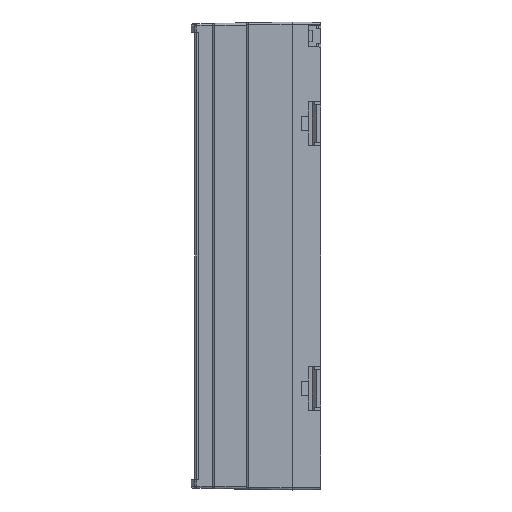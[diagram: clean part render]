
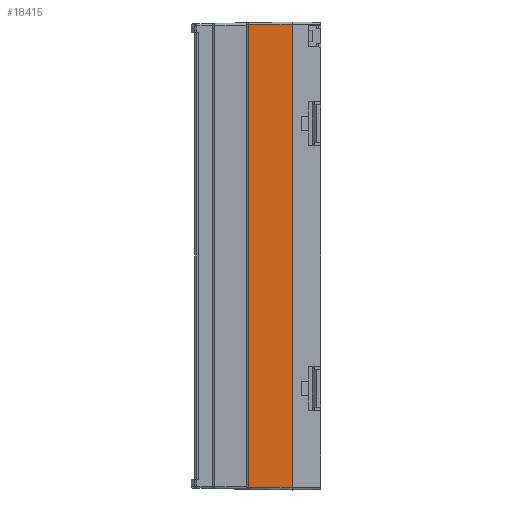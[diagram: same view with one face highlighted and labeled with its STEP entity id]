
A CAD part, left-side view. The second image highlights one B-rep face of the part: STEP entity #18415.
In plain terms, the highlighted planar face has unit normal (-1, 0.018, 0).
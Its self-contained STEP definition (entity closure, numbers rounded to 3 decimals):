
#490 = LINE ( 'NONE', #5348, #2613 ) ;
#559 = CARTESIAN_POINT ( 'NONE',  ( -44.658, -3.283, -104.708 ) ) ;
#2613 = VECTOR ( 'NONE', #11461, 1000. ) ;
#2918 = VECTOR ( 'NONE', #11613, 1000. ) ;
#3586 = VERTEX_POINT ( 'NONE', #12867 ) ;
#4627 = PLANE ( 'NONE',  #6054 ) ;
#4784 = CARTESIAN_POINT ( 'NONE',  ( -45., -22.9, -105.05 ) ) ;
#5348 = CARTESIAN_POINT ( 'NONE',  ( -45., -22.917, -105.05 ) ) ;
#6054 = AXIS2_PLACEMENT_3D ( 'NONE', #6140, #7452, #10739 ) ;
#6128 = EDGE_LOOP ( 'NONE', ( #6543, #13544, #6410, #13239 ) ) ;
#6140 = CARTESIAN_POINT ( 'NONE',  ( -44.587, 0.778, 106.05 ) ) ;
#6410 = ORIENTED_EDGE ( 'NONE', *, *, #15006, .T. ) ;
#6543 = ORIENTED_EDGE ( 'NONE', *, *, #14222, .T. ) ;
#7298 = VECTOR ( 'NONE', #8529, 1000. ) ;
#7324 = LINE ( 'NONE', #14554, #7298 ) ;
#7377 = CARTESIAN_POINT ( 'NONE',  ( -44.658, -3.283, 104.708 ) ) ;
#7452 = DIRECTION ( 'NONE',  ( -1., 0.017, 0. ) ) ;
#8035 = EDGE_CURVE ( 'NONE', #8166, #8799, #15707, .T. ) ;
#8166 = VERTEX_POINT ( 'NONE', #7377 ) ;
#8529 = DIRECTION ( 'NONE',  ( 0., 0., -1. ) ) ;
#8799 = VERTEX_POINT ( 'NONE', #559 ) ;
#8946 = FACE_OUTER_BOUND ( 'NONE', #6128, .T. ) ;
#9682 = CARTESIAN_POINT ( 'NONE',  ( -44.658, -3.283, 106.05 ) ) ;
#10044 = VERTEX_POINT ( 'NONE', #4784 ) ;
#10739 = DIRECTION ( 'NONE',  ( -0.017, -1., 0. ) ) ;
#11461 = DIRECTION ( 'NONE',  ( -0.017, -1., -0.017 ) ) ;
#11613 = DIRECTION ( 'NONE',  ( 0.017, 1., -0.017 ) ) ;
#12867 = CARTESIAN_POINT ( 'NONE',  ( -45., -22.9, 105.05 ) ) ;
#13106 = LINE ( 'NONE', #14305, #2918 ) ;
#13239 = ORIENTED_EDGE ( 'NONE', *, *, #16141, .F. ) ;
#13544 = ORIENTED_EDGE ( 'NONE', *, *, #8035, .T. ) ;
#14222 = EDGE_CURVE ( 'NONE', #3586, #8166, #13106, .T. ) ;
#14305 = CARTESIAN_POINT ( 'NONE',  ( -44.641, -2.317, 104.691 ) ) ;
#14554 = CARTESIAN_POINT ( 'NONE',  ( -45., -22.9, 106.05 ) ) ;
#15006 = EDGE_CURVE ( 'NONE', #8799, #10044, #490, .T. ) ;
#15707 = LINE ( 'NONE', #9682, #16474 ) ;
#16141 = EDGE_CURVE ( 'NONE', #3586, #10044, #7324, .T. ) ;
#16474 = VECTOR ( 'NONE', #17419, 1000. ) ;
#17419 = DIRECTION ( 'NONE',  ( 0., 0., -1. ) ) ;
#18415 = ADVANCED_FACE ( 'NONE', ( #8946 ), #4627, .T. ) ;
